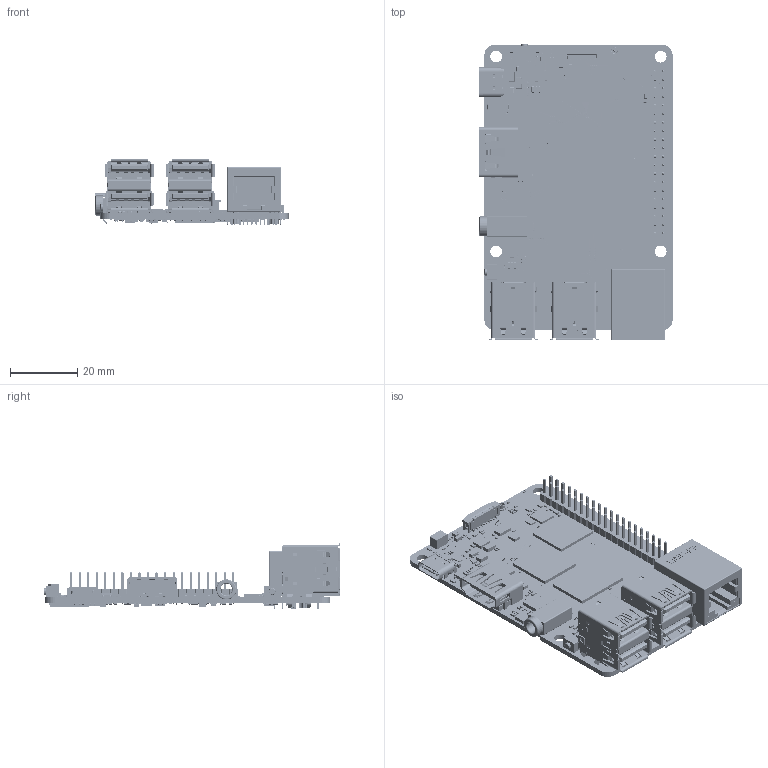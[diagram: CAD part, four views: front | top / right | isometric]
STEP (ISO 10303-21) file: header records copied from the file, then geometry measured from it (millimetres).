
FILE_DESCRIPTION((''),'2;1');
FILE_NAME('RS113_PCBA','2024-05-07T11:12:15',('admin'),(''),'CREO PARAMETRIC BY PTC INC, 2024063','CREO PARAMETRIC BY PTC INC, 2024063','');
FILE_SCHEMA(('CONFIG_CONTROL_DESIGN','SHAPE_APPEARANCE_LAYERS_GROUPS'));
Products named in the file (1): RS113_PCBA
Bounding box: 57.53 x 88.37 x 19.8 mm (x, y, z)
Volume: 18843.2 mm3; surface area: 23384.5 mm2
Topology: 74 solids, 128 shells, 20242 faces, 48356 edges, 27903 vertices
Faces by surface type: plane 11420, cylinder 6897, sphere 1482, torus 299, bspline 106, extrusion 27, cone 11
Entity records: 841854 total; most frequent: CARTESIAN_POINT 108262, DIRECTION 97161, ORIENTED_EDGE 95098, PRESENTATION_STYLE_ASSIGNMENT 64316, STYLED_ITEM 47677, CURVE_STYLE 47551, EDGE_CURVE 47549, VECTOR 33809
